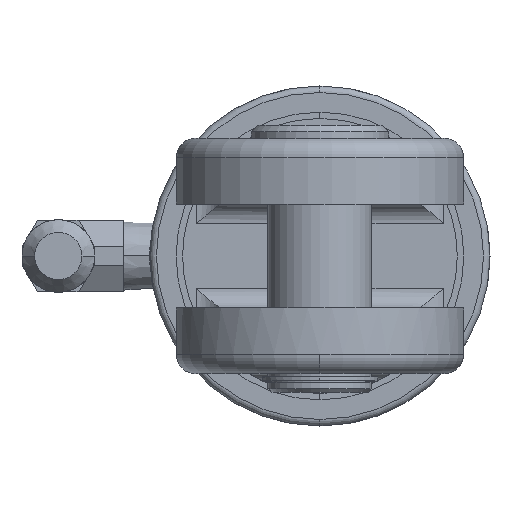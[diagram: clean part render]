
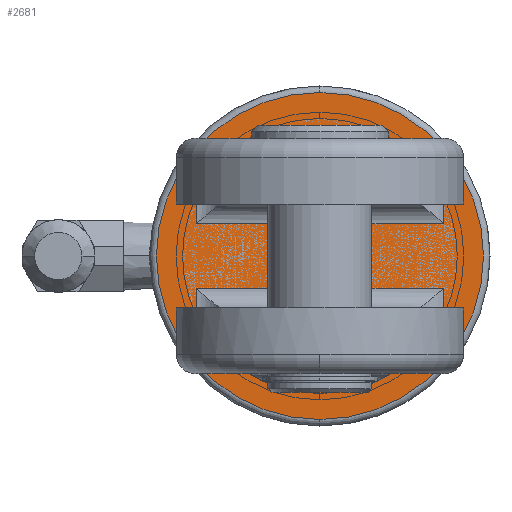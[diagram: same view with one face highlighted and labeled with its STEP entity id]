
A CAD part, left-side view. The second image highlights one B-rep face of the part: STEP entity #2681.
In plain terms, the highlighted planar face has unit normal (-1, 0, 0).
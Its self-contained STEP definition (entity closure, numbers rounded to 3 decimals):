
#8 = CARTESIAN_POINT ( 'NONE',  ( -220.5, 0., -25. ) ) ;
#273 = DIRECTION ( 'NONE',  ( 0., 0., 1. ) ) ;
#1098 = VERTEX_POINT ( 'NONE', #8997 ) ;
#1169 = ORIENTED_EDGE ( 'NONE', *, *, #4873, .T. ) ;
#1208 = PLANE ( 'NONE',  #3690 ) ;
#1266 = DIRECTION ( 'NONE',  ( 0., 0., 1. ) ) ;
#2189 = CIRCLE ( 'NONE', #3792, 25. ) ;
#2625 = ORIENTED_EDGE ( 'NONE', *, *, #9243, .T. ) ;
#2677 = DIRECTION ( 'NONE',  ( -1., 0., 0. ) ) ;
#2681 = ADVANCED_FACE ( 'NONE', ( #3296 ), #1208, .F. ) ;
#3134 = CARTESIAN_POINT ( 'NONE',  ( -220.5, 0., 0. ) ) ;
#3296 = FACE_OUTER_BOUND ( 'NONE', #5977, .T. ) ;
#3690 = AXIS2_PLACEMENT_3D ( 'NONE', #5455, #8478, #5525 ) ;
#3792 = AXIS2_PLACEMENT_3D ( 'NONE', #3134, #8163, #273 ) ;
#4873 = EDGE_CURVE ( 'NONE', #7522, #1098, #2189, .T. ) ;
#5455 = CARTESIAN_POINT ( 'NONE',  ( -220.5, 25., 0. ) ) ;
#5525 = DIRECTION ( 'NONE',  ( 0., 0., -1. ) ) ;
#5977 = EDGE_LOOP ( 'NONE', ( #2625, #1169 ) ) ;
#6315 = CARTESIAN_POINT ( 'NONE',  ( -220.5, 0., 0. ) ) ;
#7522 = VERTEX_POINT ( 'NONE', #8 ) ;
#7693 = AXIS2_PLACEMENT_3D ( 'NONE', #6315, #2677, #1266 ) ;
#8163 = DIRECTION ( 'NONE',  ( -1., 0., 0. ) ) ;
#8478 = DIRECTION ( 'NONE',  ( 1., 0., 0. ) ) ;
#8978 = CIRCLE ( 'NONE', #7693, 25. ) ;
#8997 = CARTESIAN_POINT ( 'NONE',  ( -220.5, 0., 25. ) ) ;
#9243 = EDGE_CURVE ( 'NONE', #1098, #7522, #8978, .T. ) ;
